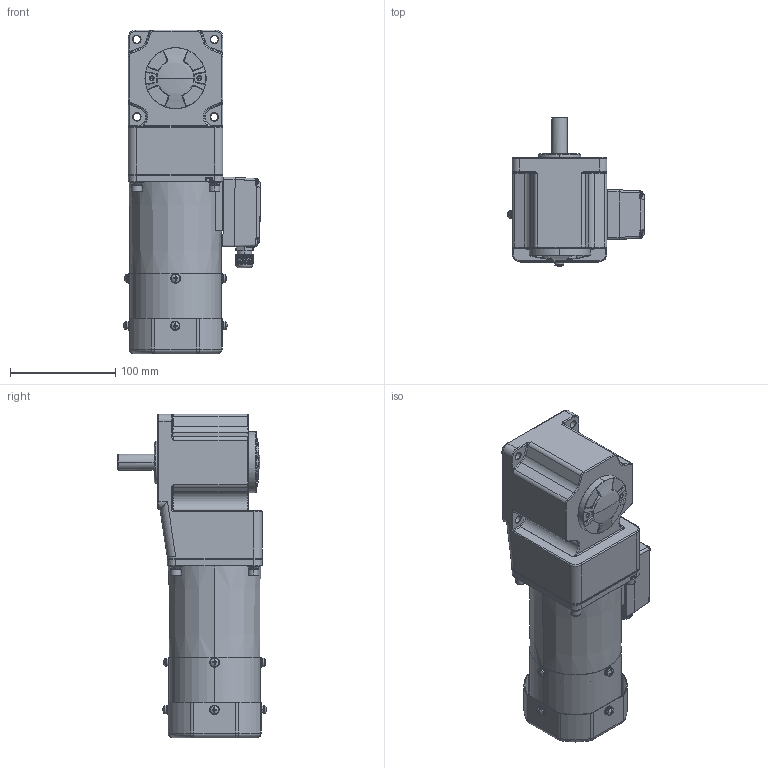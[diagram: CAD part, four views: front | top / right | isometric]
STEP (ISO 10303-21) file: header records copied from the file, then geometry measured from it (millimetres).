
FILE_DESCRIPTION (( 'STEP AP203' ), '1' );
FILE_NAME ('5RK60GU-CMFT(5GU3RT-180RT).STEP', '2020-04-28T07:50:10', ( 'Windows 蚚誧' ), ( '' ), 'SwSTEP 2.0', 'SolidWorks 2019', '' );
FILE_SCHEMA (( 'CONFIG_CONTROL_DESIGN' ));
Length unit declared in the file: millimetre
Products named in the file (3): 5RK60GU-CMFT(5GU3RT-180RT); 5RK60A-CMFT; 90RT
Assembly tree (2 placements, depth 2):
  5RK60GU-CMFT(5GU3RT-180RT)
    5RK60A-CMFT
    90RT
Bounding box: 129.69 x 141.06 x 307 mm (x, y, z)
Volume: 1042423.4 mm3; surface area: 334988.8 mm2
Topology: 46 solids, 49 shells, 3675 faces, 9231 edges, 5545 vertices
Faces by surface type: cylinder 1187, plane 893, cone 768, torus 469, bspline 198, sphere 160
Entity records: 124097 total; most frequent: CARTESIAN_POINT 36703, DIRECTION 19251, ORIENTED_EDGE 18074, EDGE_CURVE 9037, AXIS2_PLACEMENT_3D 8012, VERTEX_POINT 5535, CIRCLE 4530, EDGE_LOOP 3860
